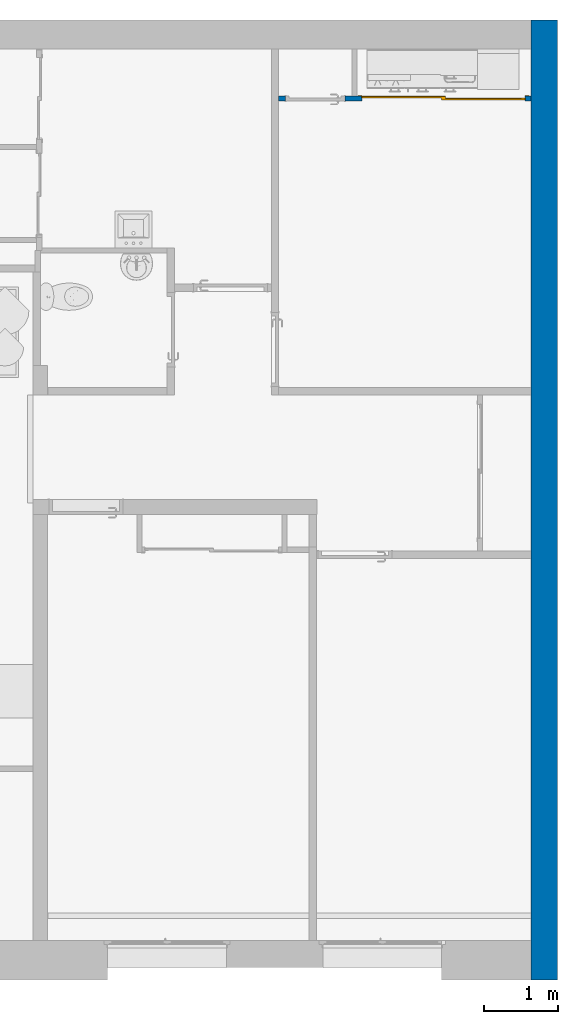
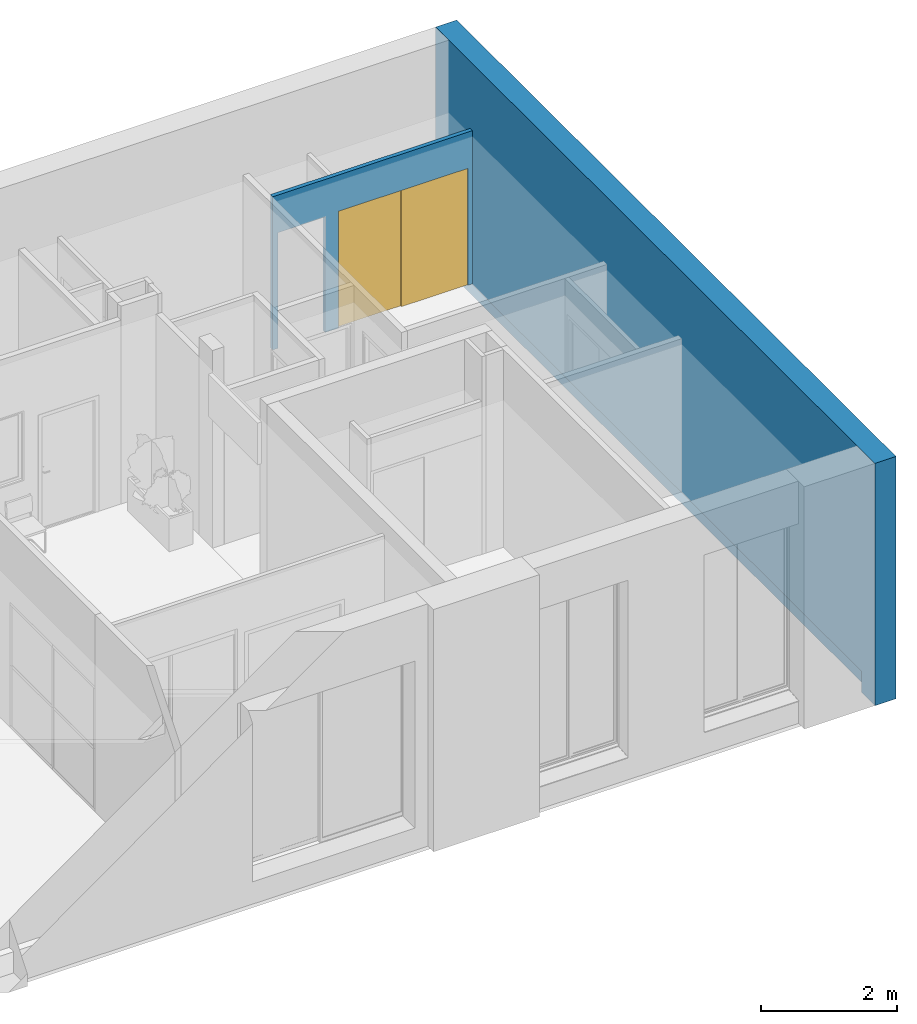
# One storey, part 18 of 32: 2 walls, 1 door, 3 openings.
"""IFC2X3 building model written with IfcOpenShell, lengths in metres."""

from ifc_helpers import new_model, entity, si_unit, converted_unit, derived_unit, direction, frame, frame_2d, origin, origin_2d_with_axis, place, context, subcontext, project, spatial, polyline, circle_curve, parameter, trimmed, segment, composite_curve, rectangle, outline, extrude, source, transform, mapped, material, material_list, layer, layer_set, layer_usage, type_object, type_shapes, element, fill, save


model = new_model("IFC2X3")

# Units and contexts
model_context = context("Model", 3, precision=1e-05, world=origin(), true_north=direction((6.12303176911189e-17, 1.0)))
plan_context = context("Plan", 3, precision=1e-05, world=origin(), true_north=direction((6.12303176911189e-17, 1.0)))
body_context = subcontext(model_context, "Body", "Model", "MODEL_VIEW")
ifc_project = project(units=[si_unit("LENGTHUNIT", "METRE"), si_unit("AREAUNIT", "SQUARE_METRE"), si_unit("VOLUMEUNIT", "CUBIC_METRE"), converted_unit("PLANEANGLEUNIT", "DEGREE", entity("IfcRatioMeasure", 0.0174532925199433), si_unit("PLANEANGLEUNIT", "RADIAN"), dimensions=[0, 0, 0, 0, 0, 0, 0]), si_unit("MASSUNIT", "GRAM", prefix="KILO"), derived_unit("MASSDENSITYUNIT", [(si_unit("MASSUNIT", "GRAM", prefix="KILO"), 1), (si_unit("LENGTHUNIT", "METRE"), -3)]), derived_unit("MOMENTOFINERTIAUNIT", [(si_unit("LENGTHUNIT", "METRE"), 4)]), si_unit("TIMEUNIT", "SECOND"), si_unit("FREQUENCYUNIT", "HERTZ"), si_unit("THERMODYNAMICTEMPERATUREUNIT", "DEGREE_CELSIUS"), derived_unit("THERMALTRANSMITTANCEUNIT", [(si_unit("MASSUNIT", "GRAM", prefix="KILO"), 1), (si_unit("THERMODYNAMICTEMPERATUREUNIT", "KELVIN"), -1), (si_unit("TIMEUNIT", "SECOND"), -3)]), derived_unit("VOLUMETRICFLOWRATEUNIT", [(si_unit("LENGTHUNIT", "METRE"), 3), (si_unit("TIMEUNIT", "SECOND"), -1)]), si_unit("ELECTRICCURRENTUNIT", "AMPERE"), si_unit("ELECTRICVOLTAGEUNIT", "VOLT"), si_unit("POWERUNIT", "WATT"), si_unit("FORCEUNIT", "NEWTON", prefix="KILO"), si_unit("ILLUMINANCEUNIT", "LUX"), si_unit("LUMINOUSFLUXUNIT", "LUMEN"), si_unit("LUMINOUSINTENSITYUNIT", "CANDELA"), derived_unit("USERDEFINED", [(si_unit("MASSUNIT", "GRAM", prefix="KILO"), -1), (si_unit("LENGTHUNIT", "METRE"), -2), (si_unit("TIMEUNIT", "SECOND"), 3), (si_unit("LUMINOUSFLUXUNIT", "LUMEN"), 1)]), derived_unit("LINEARVELOCITYUNIT", [(si_unit("LENGTHUNIT", "METRE"), 1), (si_unit("TIMEUNIT", "SECOND"), -1)]), si_unit("PRESSUREUNIT", "PASCAL"), derived_unit("USERDEFINED", [(si_unit("LENGTHUNIT", "METRE"), -2), (si_unit("MASSUNIT", "GRAM", prefix="KILO"), 1), (si_unit("TIMEUNIT", "SECOND"), -2)]), derived_unit("LINEARFORCEUNIT", [(si_unit("MASSUNIT", "GRAM", prefix="KILO"), 1), (si_unit("LENGTHUNIT", "METRE"), 1), (si_unit("TIMEUNIT", "SECOND"), -2), (si_unit("LENGTHUNIT", "METRE"), -1)]), derived_unit("PLANARFORCEUNIT", [(si_unit("MASSUNIT", "GRAM", prefix="KILO"), 1), (si_unit("LENGTHUNIT", "METRE"), 1), (si_unit("TIMEUNIT", "SECOND"), -2), (si_unit("LENGTHUNIT", "METRE"), -2)])], contexts=[model_context, plan_context])

# Site, building, storey
site_placement = place(None, origin())
site = spatial("IfcSite", under=ifc_project, at=site_placement, Name="Default", CompositionType="ELEMENT")
building_placement = place(site_placement, origin())
building = spatial("IfcBuilding", under=site, at=building_placement, CompositionType="ELEMENT")
storey_placement = place(building_placement, origin())
storey = spatial("IfcBuildingStorey", under=building, at=storey_placement, Name="0 Mairie RDC 0.00", CompositionType="ELEMENT", Elevation=-1.94916083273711e-14)

# Wall, openings, door
ifc_material_1 = material(Name="Plâtre")
ifc_layer_1 = layer(ifc_material_1, 0.01)
ifc_material_2 = material(Name="Maçonnerie - Isolant")
ifc_layer_2 = layer(ifc_material_2, 0.05)
ifc_layer_3 = layer(ifc_material_1, 0.01)
ifc_layer_set_1 = layer_set([ifc_layer_1, ifc_layer_2, ifc_layer_3], Name="Mur de base:A cloison placostil 72 sèche")
ifc_layer_usage_1 = layer_usage(ifc_layer_set_1, "AXIS2", "NEGATIVE", 0.035)
wall_type_1 = type_object("IfcWallType", Name="Murs : Mur de base : A cloison placostil 72 sèche", PredefinedType="STANDARD", material=ifc_layer_set_1)
wall_1_placement = place(storey_placement, frame((1.77761560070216, -2.63776374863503, 0.0), z_axis=(0.0, 0.0, 1.0), x_axis=(-1.0, 0.0, 0.0)))
wall_1 = element("IfcWallStandardCase", 1, at=wall_1_placement, inside=storey, type_object=wall_type_1, material=ifc_layer_usage_1, Name="Murs : Mur de base : A cloison placostil 72 sèche", ObjectType="Mur de base:A cloison placostil 72 sèche", context=body_context, shape_type="SweptSolid", body=[
    extrude(rectangle(XDim=3.39537085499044, YDim=0.0700000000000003, at=frame_2d((1.69768542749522, -2.42861286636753e-17), x_axis=(-1.0, 0.0))), origin(), (0.0, 0.0, 1.0), 2.75),
])
opening_1_placement = place(wall_1_placement, frame((2.50350202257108, -0.0349999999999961, 0.0)))
element("IfcOpeningElement", 2, at=opening_1_placement, cuts=wall_1, Name="Portes : Int. Simple : PP (0.73m x 2.04m):1", ObjectType="Opening", context=body_context, shape_type="SweptSolid", body=[
    extrude(rectangle(XDim=2.075, YDim=0.799999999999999, at=frame_2d((1.0375, 0.4), x_axis=(1.0, 0.0))), frame((0.0, 0.0, 0.0), z_axis=(0.0, 1.0, 0.0), x_axis=(0.0, 0.0, 1.0)), (0.0, 0.0, 1.0), 0.07),
])
opening_2_placement = place(wall_1_placement, frame((2.27663319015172, 0.0350000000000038, 0.0)))
opening_2 = element("IfcOpeningElement", 3, at=opening_2_placement, cuts=wall_1, Name="Portes : Placard coulissante - 2 panneaux : Placard coulissante - 2 panneaux 2.20:1", ObjectType="Opening", context=body_context, shape_type="SweptSolid", body=[
    extrude(rectangle(XDim=2.09999999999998, YDim=2.2, at=frame_2d((1.04999999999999, 1.1), x_axis=(1.0, 0.0))), frame((0.0, 0.0, 0.0), z_axis=(0.0, -1.0, 0.0), x_axis=(0.0, 0.0, 1.0)), (0.0, 0.0, 1.0), 0.07),
])
ifc_material_3 = material(Name="Placard - Profil")
ifc_material_4 = material(Name="Placard - Encadrement")
ifc_material_5 = material(Name="Placard - Porte")
ifc_material_list_1 = material_list([ifc_material_3, ifc_material_3, ifc_material_3, ifc_material_3, ifc_material_4, ifc_material_5, ifc_material_5])
ifc_material_list_2 = material_list([ifc_material_3, ifc_material_3, ifc_material_3, ifc_material_3, ifc_material_4, ifc_material_5, ifc_material_5])
door_style = type_object("IfcDoorStyle", Name="Portes : Placard coulissante - 2 panneaux : Placard coulissante - 2 panneaux 2.20", ConstructionType="NOTDEFINED", OperationType="SLIDING_TO_RIGHT", ParameterTakesPrecedence=False, Sizeable=False, material=ifc_material_list_2)
shared_shape = source(origin(), body_context, "Body", "SweptSolid", [
    extrude(outline(composite_curve([segment(polyline([(-0.0249999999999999, -0.00100000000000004), (0.0249999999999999, -0.00100000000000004)]), True, "CONTINUOUS"), segment(polyline([(0.0249999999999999, -0.00100000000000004), (0.0249999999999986, 0.00100000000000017)]), True, "CONTINUOUS"), segment(trimmed(circle_curve(frame_2d((0.0, -0.212860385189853), x_axis=(-1.0, 0.0)), 0.215316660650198), [parameter(263.332459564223)], [parameter(276.667540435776)], True, "PARAMETER"), True, "CONTINUOUS"), segment(polyline([(-0.0249999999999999, 0.00100000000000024), (-0.0249999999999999, -0.00100000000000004)]), True, "CONTINUOUS")], self_intersect=False)), frame((2.175, 0.00899999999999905, 0.0), z_axis=(0.0, 0.0, 1.0), x_axis=(-1.0, 0.0, 0.0)), (0.0, 0.0, 1.0), 2.1),
    extrude(outline(composite_curve([segment(polyline([(-0.0250000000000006, -0.00100000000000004), (0.0249999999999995, -0.00100000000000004)]), True, "CONTINUOUS"), segment(polyline([(0.0249999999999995, -0.00100000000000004), (0.0249999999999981, 0.00100000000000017)]), True, "CONTINUOUS"), segment(trimmed(circle_curve(frame_2d((0.0, -0.212860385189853), x_axis=(-1.0, 0.0)), 0.215316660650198), [parameter(263.332459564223)], [parameter(276.667540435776)], True, "PARAMETER"), True, "CONTINUOUS"), segment(polyline([(-0.0250000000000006, 0.00100000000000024), (-0.0250000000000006, -0.00100000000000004)]), True, "CONTINUOUS")], self_intersect=False)), frame((1.1, 0.00900000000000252, 0.0), z_axis=(0.0, 0.0, 1.0), x_axis=(-1.0, 0.0, 0.0)), (0.0, 0.0, 1.0), 2.1),
    extrude(outline(composite_curve([segment(polyline([(-0.0250000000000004, -0.00100000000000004), (0.0249999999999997, -0.00100000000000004)]), True, "CONTINUOUS"), segment(polyline([(0.0249999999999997, -0.00100000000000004), (0.0249999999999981, 0.00100000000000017)]), True, "CONTINUOUS"), segment(trimmed(circle_curve(frame_2d((0.0, -0.212860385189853), x_axis=(-1.0, 0.0)), 0.215316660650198), [parameter(263.332459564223)], [parameter(276.667540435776)], True, "PARAMETER"), True, "CONTINUOUS"), segment(polyline([(-0.0250000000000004, 0.00100000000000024), (-0.0250000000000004, -0.00100000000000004)]), True, "CONTINUOUS")], self_intersect=False)), frame((1.1, 0.0340000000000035, 0.0), z_axis=(0.0, 0.0, 1.0), x_axis=(-1.0, 0.0, 0.0)), (0.0, 0.0, 1.0), 2.1),
    extrude(outline(composite_curve([segment(polyline([(-0.0250000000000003, -0.00100000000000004), (0.0249999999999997, -0.00100000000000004)]), True, "CONTINUOUS"), segment(polyline([(0.0249999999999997, -0.00100000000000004), (0.0249999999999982, 0.00100000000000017)]), True, "CONTINUOUS"), segment(trimmed(circle_curve(frame_2d((0.0, -0.212860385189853), x_axis=(-1.0, 0.0)), 0.215316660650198), [parameter(263.332459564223)], [parameter(276.667540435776)], True, "PARAMETER"), True, "CONTINUOUS"), segment(polyline([(-0.0250000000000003, 0.00100000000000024), (-0.0250000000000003, -0.00100000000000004)]), True, "CONTINUOUS")], self_intersect=False)), frame((0.0249999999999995, 0.034000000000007, 0.0), z_axis=(0.0, 0.0, 1.0), x_axis=(-1.0, 0.0, 0.0)), (0.0, 0.0, 1.0), 2.1),
    extrude(outline(polyline([(-1.06149999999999, -1.148), (1.08649999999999, -1.148), (1.08649999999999, 1.148), (-1.06149999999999, 1.148), (-1.06149999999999, 1.098), (1.03649999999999, 1.098), (1.03649999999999, -1.098), (-1.06149999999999, -1.098), (-1.06149999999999, -1.148)])), frame((1.1, -0.00300000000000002, 1.06149999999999), z_axis=(0.0, 1.0, 0.0), x_axis=(0.0, 0.0, 1.0)), (0.0, 0.0, 1.0), 0.00300000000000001),
    extrude(rectangle(XDim=0.020000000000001, YDim=1.125, at=frame_2d((0.0, -5.55111512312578e-17), x_axis=(1.0, 0.0))), frame((1.6375, 0.0200000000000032, 0.0), z_axis=(0.0, 0.0, 1.0), x_axis=(0.0, 1.0, 0.0)), (0.0, 0.0, 1.0), 2.1),
    extrude(rectangle(XDim=0.02, YDim=1.125, at=origin_2d_with_axis()), frame((0.562499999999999, 0.0450000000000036, 0.0), z_axis=(0.0, 0.0, 1.0), x_axis=(0.0, 1.0, 0.0)), (0.0, 0.0, 1.0), 2.1),
])
type_shapes(door_style, [shared_shape])
door_placement = place(opening_2_placement, frame((-2.2, -0.0700000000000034, 0.0)))
door = element("IfcDoor", 4, at=door_placement, inside=storey, type_object=door_style, material=ifc_material_list_1, Name="Portes : Placard coulissante - 2 panneaux : Placard coulissante - 2 panneaux 2.20", ObjectType="Placard coulissante - 2 panneaux:Placard coulissante - 2 panneaux 2.20", OverallHeight=2.09999999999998, OverallWidth=2.2, context=body_context, shape_type="MappedRepresentation", body=[
    mapped(shared_shape, transform((0.0, 0.0, 0.0), scale=1.0)),
])
fill(opening_2, door)

# Wall, opening
ifc_material_6 = material(Name="Béton, coulé sur place")
ifc_layer_4 = layer(ifc_material_6, 0.22)
ifc_material_7 = material(Name="Vide")
ifc_layer_5 = layer(ifc_material_7, 0.01)
ifc_layer_6 = layer(ifc_material_2, 0.12)
ifc_layer_7 = layer(ifc_material_1, 0.01)
ifc_layer_set_2 = layer_set([ifc_layer_4, ifc_layer_5, ifc_layer_6, ifc_layer_7], Name="Mur de base:A  Béton 22 + vide 1 +  Doublage 14")
ifc_layer_usage_2 = layer_usage(ifc_layer_set_2, "AXIS2", "POSITIVE", -0.18)
wall_type_2 = type_object("IfcWallType", Name="Murs : Mur de base : A  Béton 22 + vide 1 +  Doublage 14", PredefinedType="STANDARD", material=ifc_layer_set_2)
wall_2_placement = place(storey_placement, frame((1.95761560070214, -14.5085662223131, -0.400000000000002), z_axis=(0.0, 0.0, 1.0), x_axis=(0.0, 1.0, 0.0)))
wall_2 = element("IfcWallStandardCase", 5, at=wall_2_placement, inside=storey, type_object=wall_type_2, material=ifc_layer_usage_2, Name="Murs : Mur de base : A  Béton 22 + vide 1 +  Doublage 14", ObjectType="Mur de base:A  Béton 22 + vide 1 +  Doublage 14", context=body_context, shape_type="SweptSolid", body=[
    extrude(rectangle(XDim=12.925802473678, YDim=0.36, at=frame_2d((6.46290123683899, 4.16333634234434e-17), x_axis=(-1.0, 0.0))), origin(), (0.0, 0.0, 1.0), 4.35000000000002),
])
opening_3_placement = place(storey_placement, frame((1.95761560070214, -14.5085662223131, -0.400000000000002), z_axis=(0.0, 0.0, 1.0), x_axis=(0.0, 1.0, 0.0)))
element("IfcOpeningElement", 6, at=opening_3_placement, cuts=wall_2, Name="Murs : Mur de base : A  Béton 22 + vide 1 +  Doublage 14:1", ObjectType="Opening", context=body_context, shape_type="SweptSolid", body=[
    extrude(rectangle(XDim=0.380000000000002, YDim=0.13, at=frame_2d((5.48172618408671e-16, 0.0), x_axis=(0.0, 1.0))), frame((0.400000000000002, 0.114999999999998, 0.190000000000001), z_axis=(1.0, 0.0, 0.0), x_axis=(0.0, -1.0, 0.0)), (0.0, 0.0, 1.0), 12.265802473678),
])

save(model, "model.ifc")
